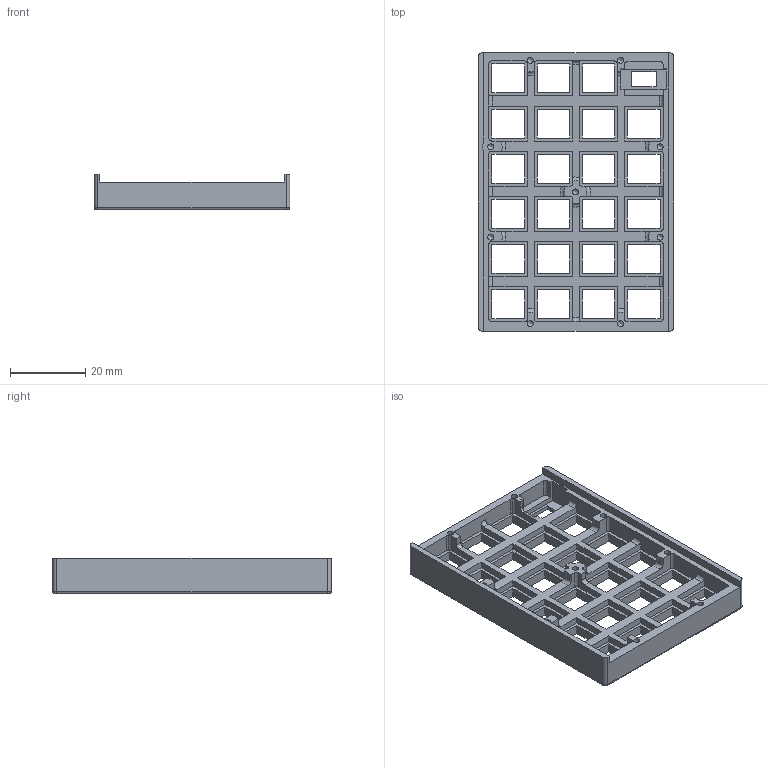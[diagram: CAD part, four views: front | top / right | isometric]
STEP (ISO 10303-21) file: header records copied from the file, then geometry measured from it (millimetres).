
FILE_DESCRIPTION(/* description */ (''),/* implementation_level */ '2;1');
FILE_NAME(/* name */ 'EduardoKeypadFrame.stp',/* time_stamp */ '2026-02-20T20:45:28+01:00',/* author */ ('offt'),/* organization */ (''),/* preprocessor_version */ 'ST-DEVELOPER v20',/* originating_system */ 'Autodesk Inventor 2024',/* authorisation */ '');
FILE_SCHEMA (('AUTOMOTIVE_DESIGN { 1 0 10303 214 3 1 1 }'));
Length unit declared in the file: millimetre
Products named in the file (1): EduardoKeypadFrame
Bounding box: 52 x 74 x 9.5 mm (x, y, z)
Volume: 11154.4 mm3; surface area: 11804.4 mm2
Topology: 1 solids, 1 shells, 320 faces, 919 edges, 607 vertices
Faces by surface type: plane 230, cylinder 65, torus 12, cone 9, bspline 4
Full cylindrical faces by diameter (mm): 1.6 x9
Entity records: 10974 total; most frequent: CARTESIAN_POINT 2077, ORIENTED_EDGE 1820, DIRECTION 1668, EDGE_CURVE 910, LINE 740, VECTOR 740, VERTEX_POINT 607, AXIS2_PLACEMENT_3D 464
